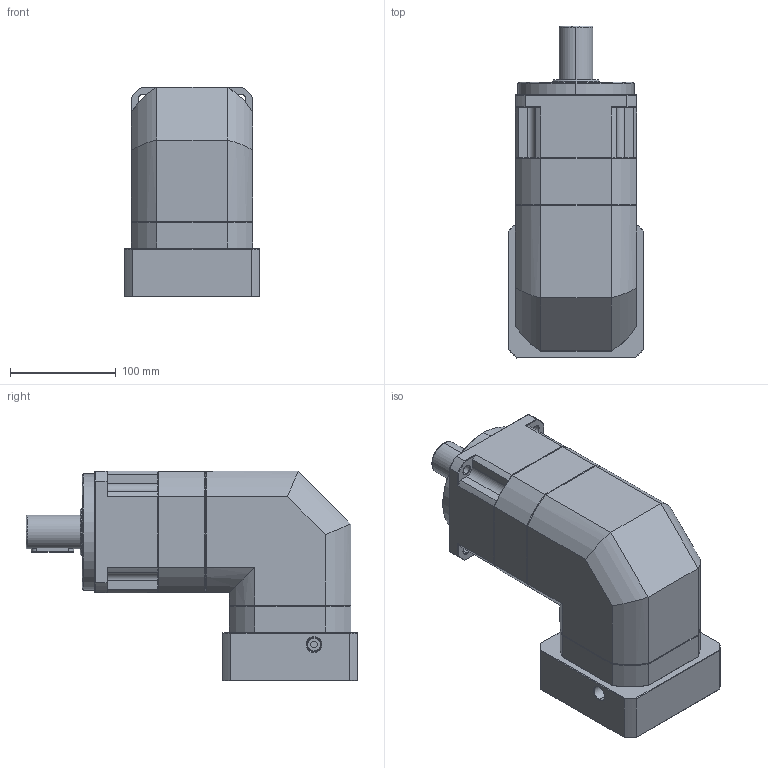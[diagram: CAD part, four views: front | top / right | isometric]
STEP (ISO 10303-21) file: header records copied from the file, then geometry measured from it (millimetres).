
FILE_DESCRIPTION (( 'STEP AP214' ), '1' );
FILE_NAME ('ZPBR115-D32-L2-P1-28-110-145-M8.step', '2024-06-29T08:08:30', ( 'Windows 蚚誧' ), ( 'Organization' ), 'SwSTEP 2.0', 'SolidWorks 2016', '' );
FILE_SCHEMA (( 'AUTOMOTIVE_DESIGN' ));
Length unit declared in the file: millimetre
Products named in the file (1): ZPBR115-D32-L2-P1-28-110-145-M8
Bounding box: 128 x 313.5 x 198.2 mm (x, y, z)
Surface area: 218100.7 mm2 (no closed solid volume)
Topology: 0 solids, 29 shells, 1844 faces, 4961 edges, 3177 vertices
Faces by surface type: plane 941, bspline 381, cone 286, cylinder 236
Full cylindrical faces by diameter (mm): 10.2 x1
Entity records: 99666 total; most frequent: CARTESIAN_POINT 49414, ORIENTED_EDGE 9892, DIRECTION 7592, EDGE_CURVE 4955, LINE 3200, VECTOR 3200, VERTEX_POINT 3175, AXIS2_PLACEMENT_3D 2196
